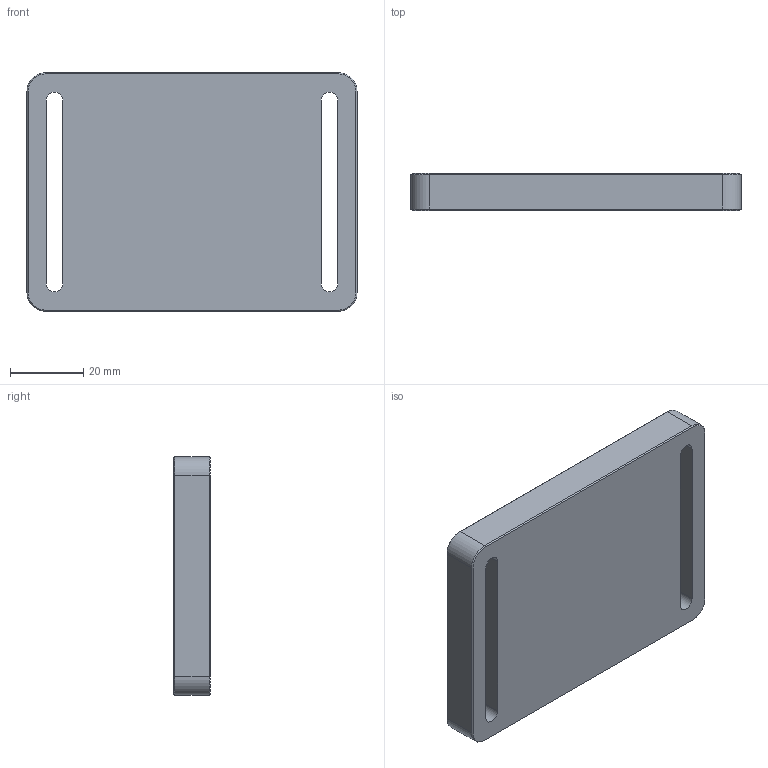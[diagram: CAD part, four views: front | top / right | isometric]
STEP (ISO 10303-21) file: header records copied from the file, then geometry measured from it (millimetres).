
FILE_DESCRIPTION (( 'STEP AP203' ), '1' );
FILE_NAME ('抻渀怢蛌諉.STEP', '2026-10-08T06:42:01', ( '' ), ( '' ), 'SwSTEP 2.0', 'SolidWorks 2024', '' );
FILE_SCHEMA (( 'CONFIG_CONTROL_DESIGN' ));
Length unit declared in the file: millimetre
Products named in the file (1): 探针台转接
Bounding box: 90 x 10 x 65 mm (x, y, z)
Volume: 51259.9 mm3; surface area: 16285.5 mm2
Topology: 1 solids, 1 shells, 64 faces, 156 edges, 92 vertices
Faces by surface type: cylinder 24, plane 24, cone 16
Entity records: 1893 total; most frequent: DIRECTION 334, CARTESIAN_POINT 305, ORIENTED_EDGE 296, EDGE_CURVE 148, AXIS2_PLACEMENT_3D 121, VERTEX_POINT 92, VECTOR 92, LINE 92
